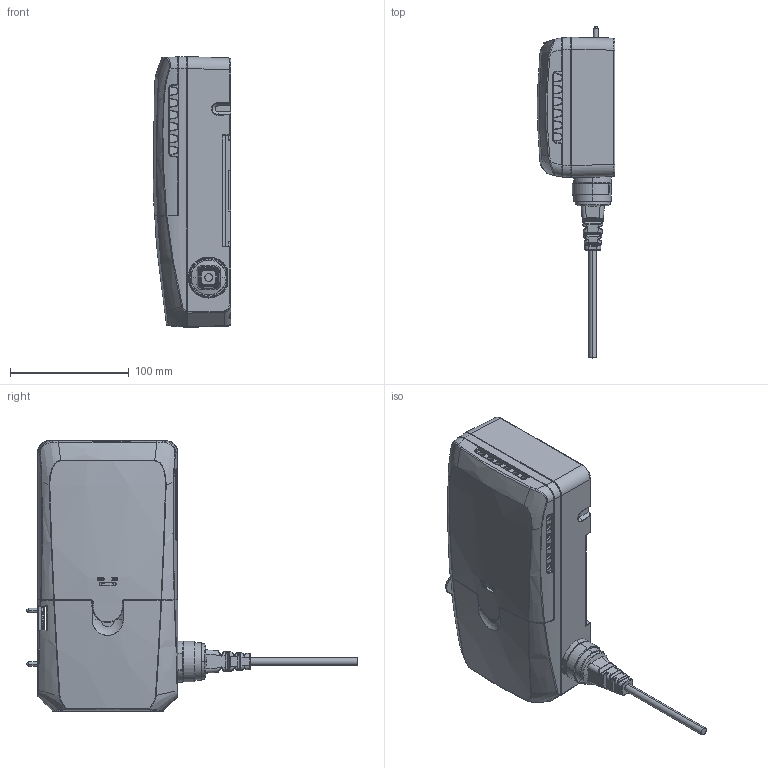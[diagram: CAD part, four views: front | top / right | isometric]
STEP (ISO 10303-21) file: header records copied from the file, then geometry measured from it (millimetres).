
FILE_DESCRIPTION (( 'STEP AP203' ), '1' );
FILE_NAME ('cm41_comtrol_box-1130.STEP', '2023-11-30T02:19:31', ( '' ), ( '' ), 'SwSTEP 2.0', 'SolidWorks 2020', '' );
FILE_SCHEMA (( 'CONFIG_CONTROL_DESIGN' ));
Products named in the file (1): cm41_comtrol_box-1130
Bounding box: 65.63 x 279.4 x 227.99 mm (x, y, z)
Surface area: 126829.7 mm2 (no closed solid volume)
Topology: 0 solids, 14 shells, 1257 faces, 4496 edges, 3101 vertices
Faces by surface type: cylinder 510, plane 348, bspline 203, torus 169, cone 17, sphere 10
Entity records: 76196 total; most frequent: CARTESIAN_POINT 42461, ORIENTED_EDGE 7002, DIRECTION 5838, EDGE_CURVE 4488, VERTEX_POINT 3099, AXIS2_PLACEMENT_3D 2014, VECTOR 1810, LINE 1810
